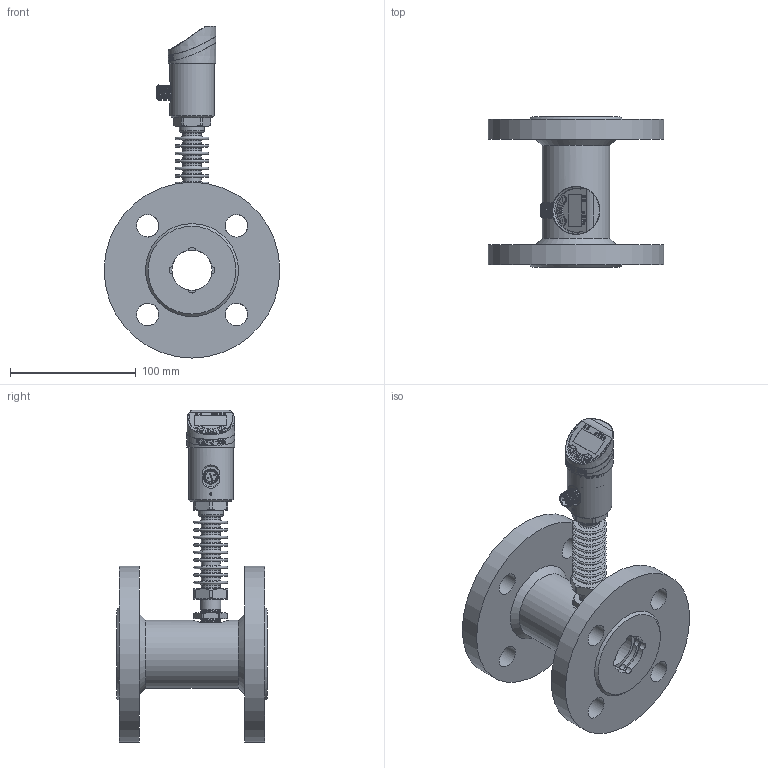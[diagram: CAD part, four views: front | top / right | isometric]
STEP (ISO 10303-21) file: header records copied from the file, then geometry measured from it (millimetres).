
FILE_DESCRIPTION( (''), '2;1');
FILE_NAME( 'QTKE_DN32_flange_high-temp.step', '2024-10-14T15:46:47+08:00', (''), (''), '', '', '');
FILE_SCHEMA (('AUTOMOTIVE_DESIGN { 1 0 10303 214 3 1 1 1 }'));
Length unit declared in the file: millimetre
Products named in the file (1): QTKE DN32_flange_high-temp
Bounding box: 140 x 120 x 264.5 mm (x, y, z)
Volume: 614706.7 mm3; surface area: 145072.3 mm2
Topology: 5 solids, 5 shells, 1048 faces, 2681 edges, 1740 vertices
Faces by surface type: plane 423, cylinder 212, extrusion 160, cone 113, torus 60, bspline 59, sphere 21
Full cylindrical faces by diameter (mm): 1.689 x1, 2 x1, 2.7 x6, 3.5 x5, 12 x1, 13 x1, 15 x10, 15.9 x1, 16.5 x1, 18 x8, 20 x1, 23 x3, 26 x5, 31.7 x1, 32 x2, 34 x1, 34.2 x1, 35.5 x2, 36.5 x2, 38 x2, 54 x1, 140 x2
Entity records: 45684 total; most frequent: CARTESIAN_POINT 17474, ORIENTED_EDGE 4938, DIRECTION 4450, EDGE_CURVE 2469, VERTEX_POINT 1675, AXIS2_PLACEMENT_3D 1628, EDGE_LOOP 1318, VECTOR 1194
